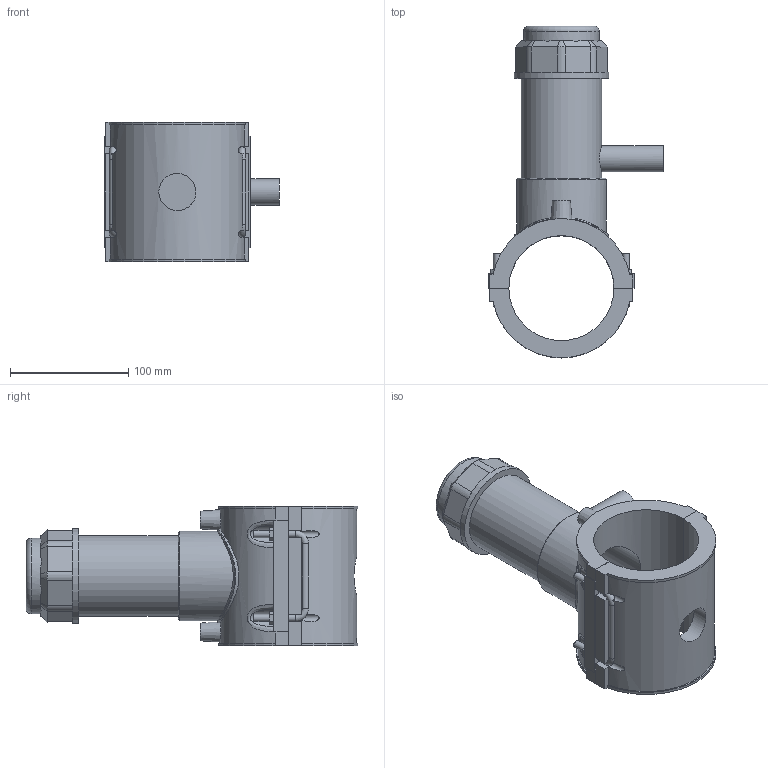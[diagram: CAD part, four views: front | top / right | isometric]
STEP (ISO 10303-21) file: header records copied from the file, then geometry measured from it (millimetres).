
FILE_DESCRIPTION(/* description */ ('PLASSON TAPPING SADDLE 3''''IPS x 1 3/4''''CTS'),/* implementation_level */ '2;1');
FILE_NAME(/* name */ 'C:\Dropbox\KIMPROJECTS-Inventor 2019\99-16-3568-Processing Inch\ASTM ElectroFusion 2021\5963B\5963BU03030007.ipt.stp',/* time_stamp */ '2021-08-30T09:56:25+03:00',/* author */ ('KIM'),/* organization */ (''),/* preprocessor_version */ 'ST-DEVELOPER v17.2',/* originating_system */ 'Autodesk Inventor 2019',/* authorisation */ '');
FILE_SCHEMA (('AUTOMOTIVE_DESIGN { 1 0 10303 214 3 1 1 }'));
Length unit declared in the file: millimetre
Products named in the file (1): 5963BU03030007
Bounding box: 147.56 x 280.2 x 118.11 mm (x, y, z)
Volume: 851756.6 mm3; surface area: 171792.7 mm2
Topology: 1 solids, 1 shells, 211 faces, 568 edges, 375 vertices
Faces by surface type: plane 128, cylinder 57, cone 15, bspline 6, torus 5
Full cylindrical faces by diameter (mm): 4 x2, 6 x7, 10 x2, 17.68 x1, 22.1 x1, 31.36 x1, 55.881 x1, 63.864 x1, 67.856 x1, 75.838 x1, 79.83 x1
Entity records: 8453 total; most frequent: CARTESIAN_POINT 3066, ORIENTED_EDGE 1158, DIRECTION 1055, EDGE_CURVE 579, VERTEX_POINT 375, AXIS2_PLACEMENT_3D 357, LINE 341, VECTOR 341
